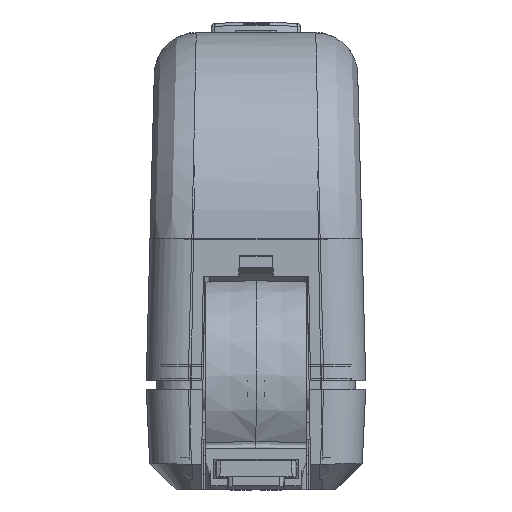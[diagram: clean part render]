
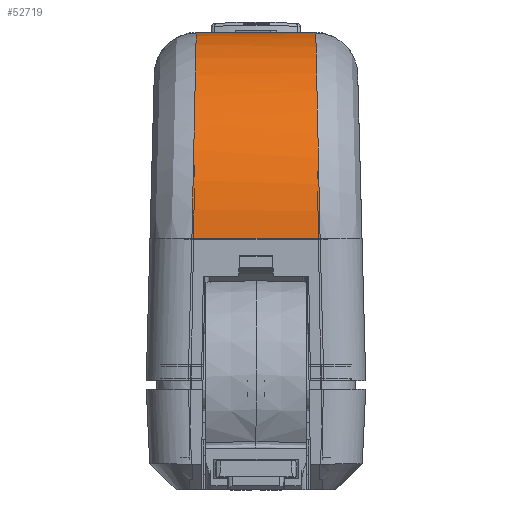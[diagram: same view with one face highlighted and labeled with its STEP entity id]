
A CAD part, left-side view. The second image highlights one B-rep face of the part: STEP entity #52719.
In plain terms, the highlighted cylindrical face has radius 25 mm (diameter 50 mm), a partial arc.
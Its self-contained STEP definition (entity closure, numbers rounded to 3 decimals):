
#8163=DIRECTION('',(0.,-1.,0.));
#8164=VECTOR('',#8163,15.288);
#8165=CARTESIAN_POINT('',(-223.696,7.644,29.936));
#8166=LINE('',#8165,#8164);
#11808=CARTESIAN_POINT('',(-198.699,7.129,
54.5));
#11809=CARTESIAN_POINT('',(-199.025,7.133,
54.5));
#11810=CARTESIAN_POINT('',(-199.725,7.126,
54.487));
#11811=CARTESIAN_POINT('',(-200.916,7.132,
54.412));
#11812=CARTESIAN_POINT('',(-202.261,7.135,
54.259));
#11813=CARTESIAN_POINT('',(-203.706,7.14,
54.008));
#11814=CARTESIAN_POINT('',(-205.141,7.147,
53.671));
#11815=CARTESIAN_POINT('',(-206.548,7.156,
53.251));
#11816=CARTESIAN_POINT('',(-207.929,7.166,
52.749));
#11817=CARTESIAN_POINT('',(-209.279,7.178,
52.167));
#11818=CARTESIAN_POINT('',(-210.592,7.192,
51.507));
#11819=CARTESIAN_POINT('',(-211.864,7.208,
50.77));
#11820=CARTESIAN_POINT('',(-213.091,7.225,
49.96));
#11821=CARTESIAN_POINT('',(-214.267,7.243,
49.08));
#11822=CARTESIAN_POINT('',(-215.39,7.263,
48.132));
#11823=CARTESIAN_POINT('',(-216.456,7.284,
47.119));
#11824=CARTESIAN_POINT('',(-217.46,7.307,
46.046));
#11825=CARTESIAN_POINT('',(-218.399,7.33,
44.916));
#11826=CARTESIAN_POINT('',(-219.271,7.355,
43.732));
#11827=CARTESIAN_POINT('',(-220.071,7.381,
42.499));
#11828=CARTESIAN_POINT('',(-220.798,7.408,
41.221));
#11829=CARTESIAN_POINT('',(-221.448,7.435,
39.903));
#11830=CARTESIAN_POINT('',(-222.02,7.464,
38.549));
#11831=CARTESIAN_POINT('',(-222.511,7.493,
37.163));
#11832=CARTESIAN_POINT('',(-222.92,7.522,
35.751));
#11833=CARTESIAN_POINT('',(-223.246,7.552,
34.317));
#11834=CARTESIAN_POINT('',(-223.486,7.583,
32.867));
#11835=CARTESIAN_POINT('',(-223.641,7.613,
31.405));
#11836=CARTESIAN_POINT('',(-223.687,7.634,
30.426));
#11837=CARTESIAN_POINT('',(-223.696,7.644,
29.936));
#11839=CARTESIAN_POINT('',(-223.696,-7.644,
29.936));
#11840=CARTESIAN_POINT('',(-223.687,-7.634,
30.426));
#11841=CARTESIAN_POINT('',(-223.641,-7.613,
31.405));
#11842=CARTESIAN_POINT('',(-223.486,-7.583,
32.867));
#11843=CARTESIAN_POINT('',(-223.246,-7.552,
34.317));
#11844=CARTESIAN_POINT('',(-222.92,-7.522,
35.751));
#11845=CARTESIAN_POINT('',(-222.511,-7.493,
37.163));
#11846=CARTESIAN_POINT('',(-222.02,-7.464,
38.549));
#11847=CARTESIAN_POINT('',(-221.448,-7.435,
39.903));
#11848=CARTESIAN_POINT('',(-220.798,-7.408,
41.221));
#11849=CARTESIAN_POINT('',(-220.071,-7.381,
42.499));
#11850=CARTESIAN_POINT('',(-219.271,-7.355,
43.732));
#11851=CARTESIAN_POINT('',(-218.399,-7.33,
44.915));
#11852=CARTESIAN_POINT('',(-217.46,-7.307,
46.046));
#11853=CARTESIAN_POINT('',(-216.456,-7.284,
47.119));
#11854=CARTESIAN_POINT('',(-215.391,-7.263,
48.131));
#11855=CARTESIAN_POINT('',(-214.268,-7.243,
49.079));
#11856=CARTESIAN_POINT('',(-213.091,-7.225,
49.96));
#11857=CARTESIAN_POINT('',(-211.864,-7.208,
50.77));
#11858=CARTESIAN_POINT('',(-210.592,-7.192,
51.506));
#11859=CARTESIAN_POINT('',(-209.279,-7.178,
52.167));
#11860=CARTESIAN_POINT('',(-207.93,-7.166,
52.749));
#11861=CARTESIAN_POINT('',(-206.548,-7.156,
53.251));
#11862=CARTESIAN_POINT('',(-205.141,-7.147,
53.671));
#11863=CARTESIAN_POINT('',(-203.707,-7.14,
54.008));
#11864=CARTESIAN_POINT('',(-202.262,-7.135,
54.259));
#11865=CARTESIAN_POINT('',(-200.916,-7.132,
54.412));
#11866=CARTESIAN_POINT('',(-199.725,-7.126,
54.487));
#11867=CARTESIAN_POINT('',(-199.025,-7.133,
54.5));
#11868=CARTESIAN_POINT('',(-198.699,-7.129,
54.5));
#12182=DIRECTION('',(0.,-1.,0.));
#12183=VECTOR('',#12182,14.259);
#12184=CARTESIAN_POINT('',(-198.699,7.129,
54.5));
#12185=LINE('',#12184,#12183);
#33239=CARTESIAN_POINT('',(-223.696,7.644,
29.936));
#33240=CARTESIAN_POINT('',(-223.696,-7.644,
29.936));
#33241=VERTEX_POINT('',#33239);
#33242=VERTEX_POINT('',#33240);
#33243=CARTESIAN_POINT('',(-198.699,7.129,
54.5));
#33244=CARTESIAN_POINT('',(-198.699,-7.129,
54.5));
#33245=VERTEX_POINT('',#33243);
#33246=VERTEX_POINT('',#33244);
#52706=CARTESIAN_POINT('',(-198.699,12.776,29.5));
#52707=DIRECTION('',(0.,-1.,0.));
#52708=DIRECTION('',(0.,0.,1.));
#52709=AXIS2_PLACEMENT_3D('',#52706,#52707,#52708);
#52710=CYLINDRICAL_SURFACE('',#52709,25.);
#52711=ORIENTED_EDGE('',*,*,#47369,.F.);
#52713=ORIENTED_EDGE('',*,*,#52712,.F.);
#52715=ORIENTED_EDGE('',*,*,#52714,.T.);
#52716=ORIENTED_EDGE('',*,*,#52690,.F.);
#52717=EDGE_LOOP('',(#52711,#52713,#52715,#52716));
#52718=FACE_OUTER_BOUND('',#52717,.F.);
#52719=ADVANCED_FACE('',(#52718),#52710,.T.);
#11838=B_SPLINE_CURVE_WITH_KNOTS('',3,(#11808,#11809,#11810,#11811,#11812,
#11813,#11814,#11815,#11816,#11817,#11818,#11819,#11820,#11821,#11822,#11823,
#11824,#11825,#11826,#11827,#11828,#11829,#11830,#11831,#11832,#11833,#11834,
#11835,#11836,#11837),.UNSPECIFIED.,.F.,.F.,(4,1,1,1,1,1,1,1,1,1,1,1,1,1,1,1,1,
1,1,1,1,1,1,1,1,1,1,4),(0.,0.037,0.074,
0.111,0.148,0.185,0.222,
0.259,0.296,0.333,0.37,
0.407,0.444,0.481,0.519,
0.556,0.593,0.63,0.667,
0.704,0.741,0.778,0.815,
0.852,0.889,0.926,0.963,1.),
.UNSPECIFIED.);
#11869=B_SPLINE_CURVE_WITH_KNOTS('',3,(#11839,#11840,#11841,#11842,#11843,
#11844,#11845,#11846,#11847,#11848,#11849,#11850,#11851,#11852,#11853,#11854,
#11855,#11856,#11857,#11858,#11859,#11860,#11861,#11862,#11863,#11864,#11865,
#11866,#11867,#11868),.UNSPECIFIED.,.F.,.F.,(4,1,1,1,1,1,1,1,1,1,1,1,1,1,1,1,1,
1,1,1,1,1,1,1,1,1,1,4),(0.,0.037,0.074,
0.111,0.148,0.185,0.222,
0.259,0.296,0.333,0.37,
0.407,0.444,0.481,0.519,
0.556,0.593,0.63,0.667,
0.704,0.741,0.778,0.815,
0.852,0.889,0.926,0.963,1.),
.UNSPECIFIED.);
#47369=EDGE_CURVE('',#33241,#33242,#8166,.T.);
#52690=EDGE_CURVE('',#33242,#33246,#11869,.T.);
#52712=EDGE_CURVE('',#33245,#33241,#11838,.T.);
#52714=EDGE_CURVE('',#33245,#33246,#12185,.T.);
